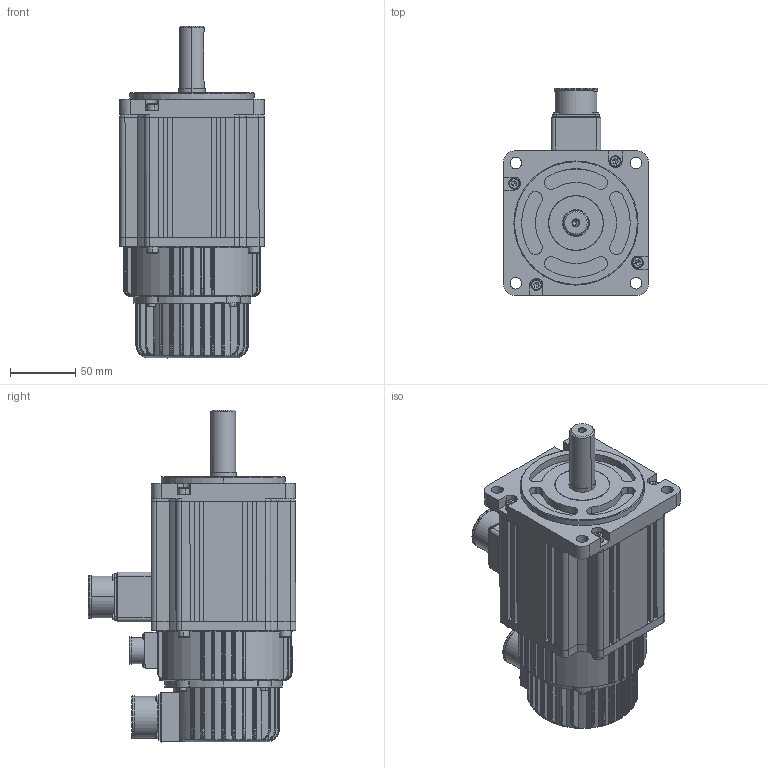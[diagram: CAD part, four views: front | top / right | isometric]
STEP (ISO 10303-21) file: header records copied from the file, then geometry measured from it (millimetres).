
FILE_DESCRIPTION (( 'STEP AP214' ), '1' );
FILE_NAME ('110B1ST-M05420Z.STEP', '2022-01-25T01:18:22', ( '' ), ( '' ), 'SwSTEP 2.0', 'SolidWorks 2020', '' );
FILE_SCHEMA (( 'AUTOMOTIVE_DESIGN' ));
Length unit declared in the file: millimetre
Products named in the file (11): cross recessed small pan head screws gb_GB_CROSS_SCREWS_TYPE3 M2.5X10-10-N; ZHOUCHENG; hexagon socket head cap screws gb_GB_FASTENER_SCREWS_HSHCS M3X10-N; 110B1ST-M05420Z; 110BST儂旯; 110BST晤鎢ん綴欶; 110BST堤粣; 110BSTヶ傷裔堤粣; 110BST綴傷裔惕掅; 瑤脣1; hexagon socket head cap screws gb_GB_FASTENER_SCREWS_HSHCS M5X35-N
Assembly tree (31 placements, depth 2):
  110B1ST-M05420Z
    110BST儂旯
    110BST堤粣
    110BST綴傷裔惕掅
    110BST晤鎢ん綴欶
    瑤脣1
    hexagon socket head cap screws gb_GB_FASTENER_SCREWS_HSHCS M5X35-N  x8
    hexagon socket head cap screws gb_GB_FASTENER_SCREWS_HSHCS M3X10-N  x4
    cross recessed small pan head screws gb_GB_CROSS_SCREWS_TYPE3 M2.5X10-10-N  x12
    110BSTヶ傷裔堤粣
    ZHOUCHENG
Bounding box: 110.57 x 158.53 x 254.05 mm (x, y, z)
Volume: 1487335.7 mm3; surface area: 231336.4 mm2
Topology: 31 solids, 34 shells, 2190 faces, 5390 edges, 3159 vertices
Faces by surface type: cylinder 721, plane 616, bspline 422, torus 319, cone 80, sphere 32
Entity records: 62912 total; most frequent: CARTESIAN_POINT 25989, ORIENTED_EDGE 7892, DIRECTION 7446, EDGE_CURVE 3946, AXIS2_PLACEMENT_3D 3091, VERTEX_POINT 2345, CIRCLE 1814, EDGE_LOOP 1747
